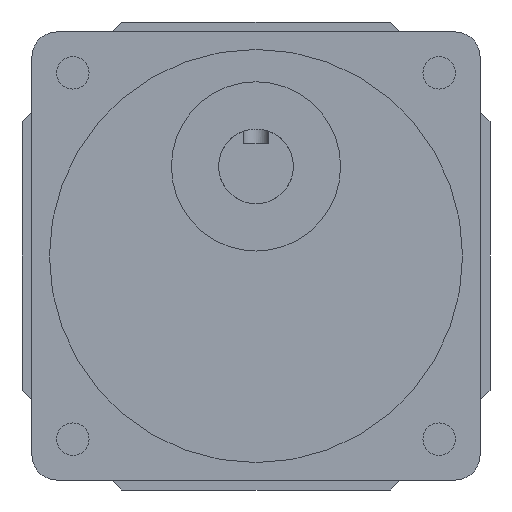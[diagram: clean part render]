
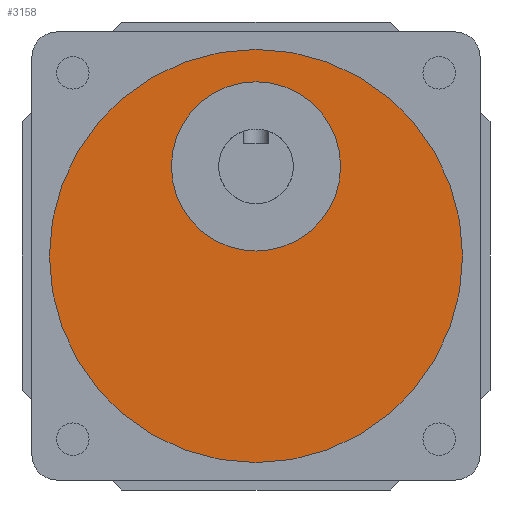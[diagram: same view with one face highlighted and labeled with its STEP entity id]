
A CAD part, front view. The second image highlights one B-rep face of the part: STEP entity #3158.
In plain terms, the highlighted planar face has unit normal (0, -1, 0).
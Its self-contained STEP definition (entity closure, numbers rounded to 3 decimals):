
#28 = CIRCLE ( 'NONE', #4027, 17. ) ;
#91 = FACE_OUTER_BOUND ( 'NONE', #2034, .T. ) ;
#112 = AXIS2_PLACEMENT_3D ( 'NONE', #3510, #3866, #2800 ) ;
#262 = CIRCLE ( 'NONE', #4049, 41.5 ) ;
#407 = DIRECTION ( 'NONE',  ( 0., -1., 0. ) ) ;
#419 = DIRECTION ( 'NONE',  ( 0., 0., -1. ) ) ;
#454 = CARTESIAN_POINT ( 'NONE',  ( 45., -63.5, 45. ) ) ;
#478 = VERTEX_POINT ( 'NONE', #991 ) ;
#494 = CIRCLE ( 'NONE', #3448, 41.5 ) ;
#588 = ORIENTED_EDGE ( 'NONE', *, *, #3282, .T. ) ;
#720 = CIRCLE ( 'NONE', #112, 17. ) ;
#811 = VERTEX_POINT ( 'NONE', #1938 ) ;
#991 = CARTESIAN_POINT ( 'NONE',  ( 45., -63.5, 46. ) ) ;
#1019 = DIRECTION ( 'NONE',  ( 0., -1., 0. ) ) ;
#1046 = EDGE_CURVE ( 'NONE', #2823, #3498, #262, .T. ) ;
#1158 = DIRECTION ( 'NONE',  ( 0., -1., 0. ) ) ;
#1332 = EDGE_CURVE ( 'NONE', #478, #811, #720, .T. ) ;
#1854 = PLANE ( 'NONE',  #4751 ) ;
#1861 = EDGE_LOOP ( 'NONE', ( #4787, #4262 ) ) ;
#1938 = CARTESIAN_POINT ( 'NONE',  ( 45., -63.5, 80. ) ) ;
#2034 = EDGE_LOOP ( 'NONE', ( #2730, #588 ) ) ;
#2097 = CARTESIAN_POINT ( 'NONE',  ( 45., -63.5, 45. ) ) ;
#2186 = FACE_BOUND ( 'NONE', #1861, .T. ) ;
#2318 = CARTESIAN_POINT ( 'NONE',  ( 45., -63.5, 3.5 ) ) ;
#2599 = DIRECTION ( 'NONE',  ( 0., 0., -1. ) ) ;
#2628 = DIRECTION ( 'NONE',  ( 0., -1., 0. ) ) ;
#2698 = DIRECTION ( 'NONE',  ( 0., 0., -1. ) ) ;
#2730 = ORIENTED_EDGE ( 'NONE', *, *, #1046, .T. ) ;
#2800 = DIRECTION ( 'NONE',  ( 0., 0., -1. ) ) ;
#2823 = VERTEX_POINT ( 'NONE', #2318 ) ;
#3158 = ADVANCED_FACE ( 'NONE', ( #2186, #91 ), #1854, .T. ) ;
#3282 = EDGE_CURVE ( 'NONE', #3498, #2823, #494, .T. ) ;
#3448 = AXIS2_PLACEMENT_3D ( 'NONE', #454, #1158, #2698 ) ;
#3498 = VERTEX_POINT ( 'NONE', #4274 ) ;
#3510 = CARTESIAN_POINT ( 'NONE',  ( 45., -63.5, 63. ) ) ;
#3669 = CARTESIAN_POINT ( 'NONE',  ( 45., -63.5, 63. ) ) ;
#3687 = EDGE_CURVE ( 'NONE', #811, #478, #28, .T. ) ;
#3866 = DIRECTION ( 'NONE',  ( 0., -1., 0. ) ) ;
#3921 = DIRECTION ( 'NONE',  ( 0., 0., -1. ) ) ;
#4019 = CARTESIAN_POINT ( 'NONE',  ( 45., -63.5, 45. ) ) ;
#4027 = AXIS2_PLACEMENT_3D ( 'NONE', #3669, #2628, #2599 ) ;
#4049 = AXIS2_PLACEMENT_3D ( 'NONE', #2097, #1019, #3921 ) ;
#4262 = ORIENTED_EDGE ( 'NONE', *, *, #1332, .F. ) ;
#4274 = CARTESIAN_POINT ( 'NONE',  ( 45., -63.5, 86.5 ) ) ;
#4751 = AXIS2_PLACEMENT_3D ( 'NONE', #4019, #407, #419 ) ;
#4787 = ORIENTED_EDGE ( 'NONE', *, *, #3687, .F. ) ;
